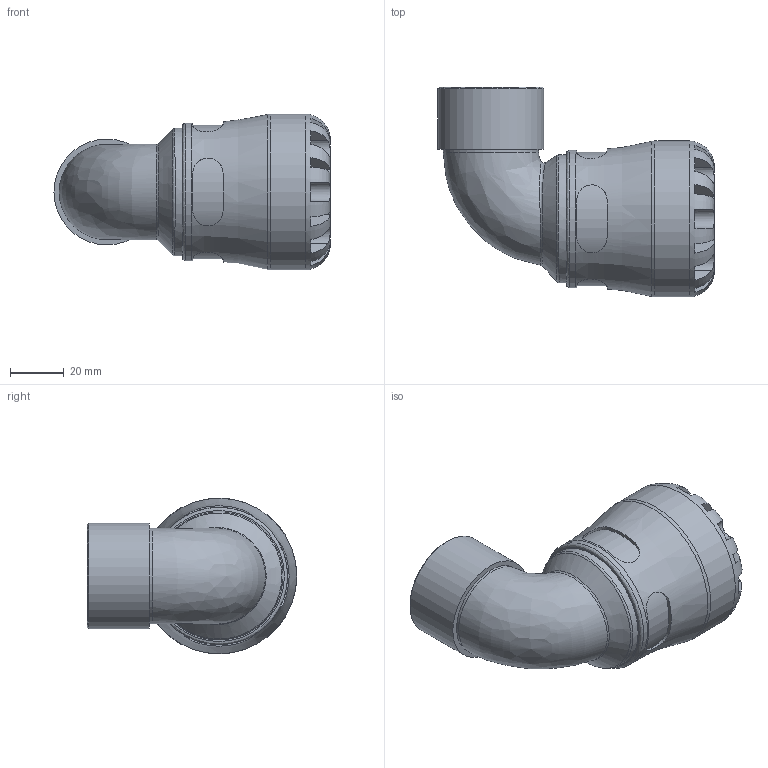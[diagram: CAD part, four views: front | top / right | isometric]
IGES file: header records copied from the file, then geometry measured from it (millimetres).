
Global section: file name: 101500032010_191500032010.ipt; native system: Autodesk Inventor 2015; preprocessor: unknown; author: KIM; date: 20170730.115218; units: millimetre
Bounding box: 102.69 x 78 x 58 mm (x, y, z)
Volume: 114407.6 mm3; surface area: 33190.7 mm2
Topology: 1 solids, 1 shells, 110 faces, 278 edges, 177 vertices
Faces by surface type: plane 62, revolution 26, cylinder 17, bspline 4, cone 1
Full cylindrical faces by diameter (mm): 35.44 x1, 39.378 x1, 47.56 x1, 51.04 x1, 58 x1
